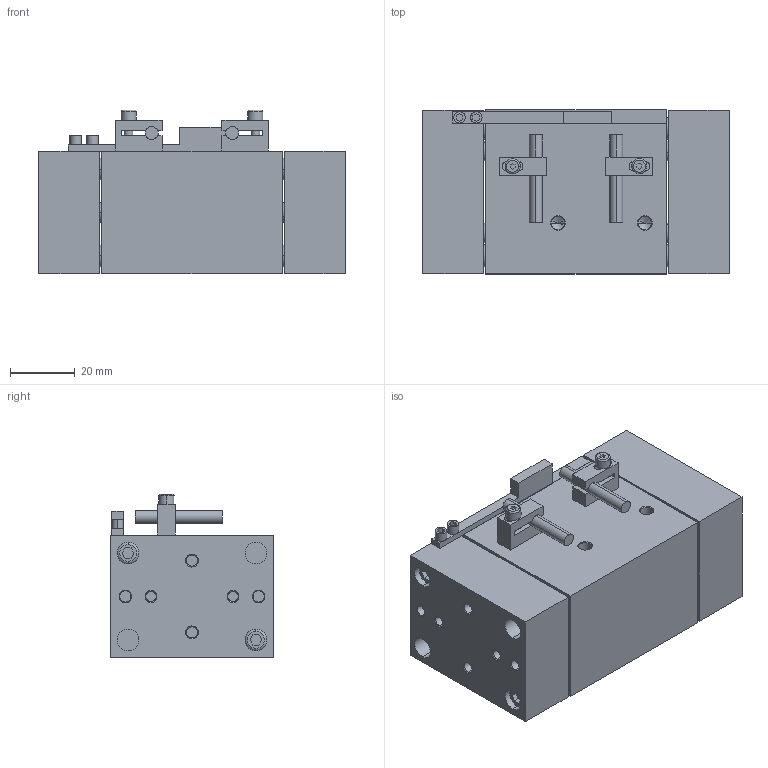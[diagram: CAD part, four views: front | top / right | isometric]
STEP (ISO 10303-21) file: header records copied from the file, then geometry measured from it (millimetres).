
FILE_DESCRIPTION (( 'STEP AP203' ), '1' );
FILE_NAME ('AGW-375-1 CLOSED in IN.STEP', '2014-11-03T15:38:47', ( 'setup' ), ( '' ), 'SwSTEP 2.0', 'SolidWorks 2013', '' );
FILE_SCHEMA (( 'CONFIG_CONTROL_DESIGN' ));
Length unit declared in the file: inch
Products named in the file (8): AGW-375-1 GUIDE ROD; AGW-375-1  SENSOR FLAG; AGW-375-1 CLOSED in IN; AGW-375-1 BODY; AGW-375-1 TOOL PLATE; AGW-375-1 SENSOR BLOCK; AGW-375-1 SENSOR; AGW-375-1 PROD
Assembly tree (16 placements, depth 2):
  AGW-375-1 CLOSED in IN
    AGW-375-1 BODY
    AGW-375-1 TOOL PLATE  x2
    AGW-375-1 SENSOR BLOCK  x2
    AGW-375-1 SENSOR  x2
    AGW-375-1 PROD  x4
    AGW-375-1 GUIDE ROD  x4
    AGW-375-1  SENSOR FLAG
Bounding box: 95 x 50.8 x 50.8 mm (x, y, z)
Volume: 176713.5 mm3; surface area: 53345.9 mm2
Topology: 20 solids, 20 shells, 378 faces, 904 edges, 562 vertices
Faces by surface type: plane 164, cylinder 138, cone 64, torus 12
Entity records: 8220 total; most frequent: DIRECTION 1304, CARTESIAN_POINT 1299, ORIENTED_EDGE 1128, EDGE_CURVE 564, AXIS2_PLACEMENT_3D 485, VERTEX_POINT 356, LINE 334, VECTOR 334
